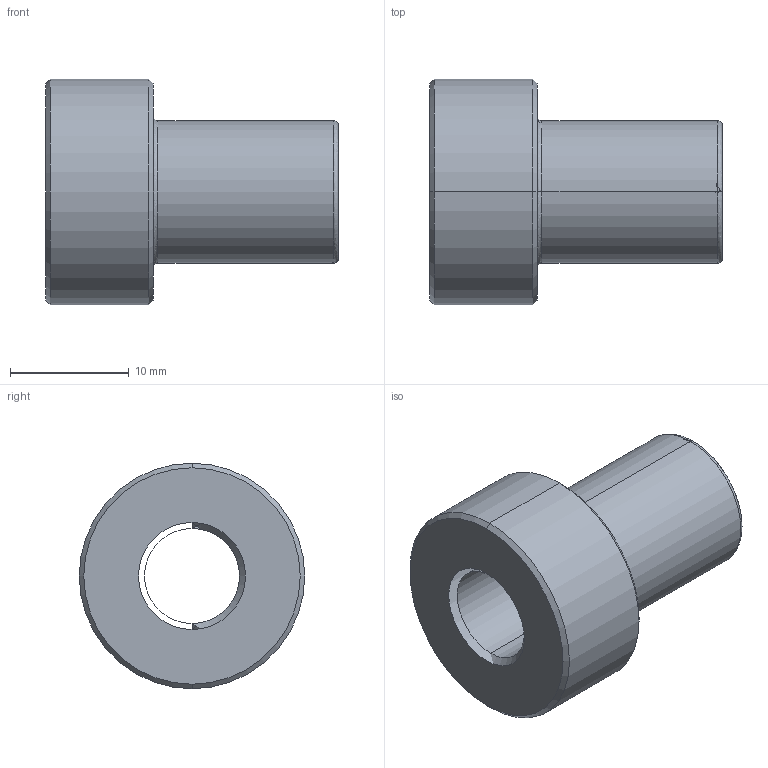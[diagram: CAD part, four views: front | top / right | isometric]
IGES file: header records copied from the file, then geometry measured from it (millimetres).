
Start section: 3D InterOp IGES (v. 2019 1.0.2), Spatial Corp. Copyright (c) 1999-2017.
Global section: file name: B3SSM.igs; native system: Spatial Corp.; preprocessor: 3D InterOp GENERIC/IGES 3.0; author: Noname; organization: Noname; date: 20200930.105759; units: millimetre
Bounding box: 24.68 x 19 x 19 mm (x, y, z)
Surface area: 2282.2 mm2 (no closed solid volume)
Topology: 0 solids, 0 shells, 21 faces, 88 edges, 86 vertices
Faces by surface type: revolution 18, extrusion 3
